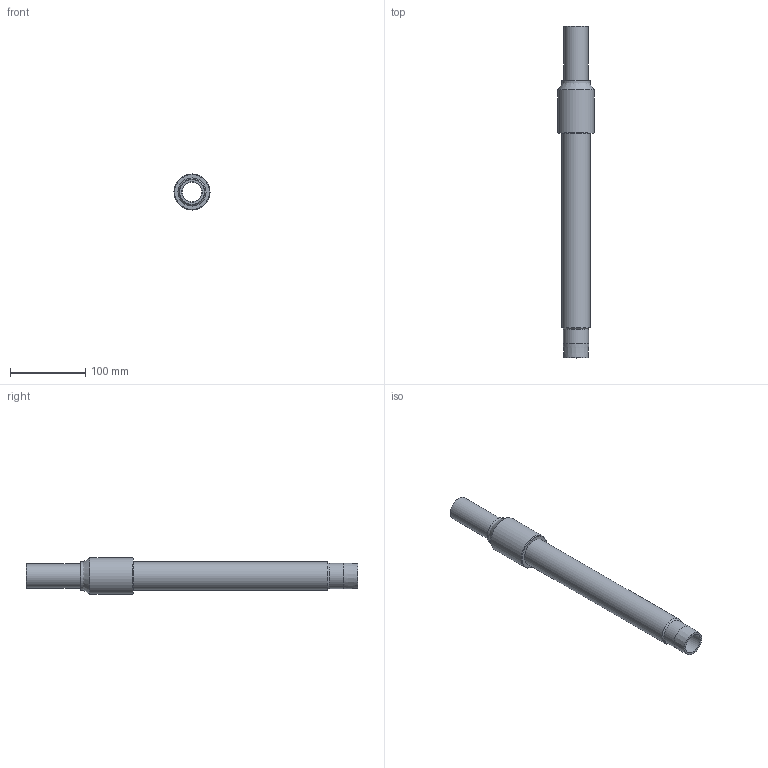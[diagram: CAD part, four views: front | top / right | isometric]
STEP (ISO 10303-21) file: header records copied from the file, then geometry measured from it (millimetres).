
FILE_DESCRIPTION(/* description */ ('Unknown'),/* implementation_level */ '2;1');
FILE_NAME(/* name */ 'RTFZRP032C',/* time_stamp */ '2022-04-27T08:54:01+02:00',/* author */ ('Unknown'),/* organization */ ('Unknown'),/* preprocessor_version */ 'ST-DEVELOPER v18.1',/* originating_system */ 'Solid Edge',/* authorisation */ 'Unknown');
FILE_SCHEMA (('AUTOMOTIVE_DESIGN {1 0 10303 214 3 1 1}'));
Length unit declared in the file: millimetre
Products named in the file (4): RTFZRP032C; Partea ACCIAIO; copertura tubo; Parte PE__oa_0
Assembly tree (3 placements, depth 2):
  RTFZRP032C
    Partea ACCIAIO
    copertura tubo
    Parte PE__oa_0
Bounding box: 48 x 442 x 48 mm (x, y, z)
Volume: 246133.2 mm3; surface area: 176687.5 mm2
Topology: 3 solids, 3 shells, 22 faces, 37 edges, 23 vertices
Faces by surface type: cylinder 9, plane 8, cone 3, torus 2
Full cylindrical faces by diameter (mm): 26 x1, 27.3 x1, 32 x1, 33.7 x3, 37.3 x2, 48 x1
Entity records: 587 total; most frequent: DIRECTION 96, CARTESIAN_POINT 70, AXIS2_PLACEMENT_3D 48, ORIENTED_EDGE 44, EDGE_LOOP 44, FACE_BOUND 44, EDGE_CURVE 22, VERTEX_POINT 22
